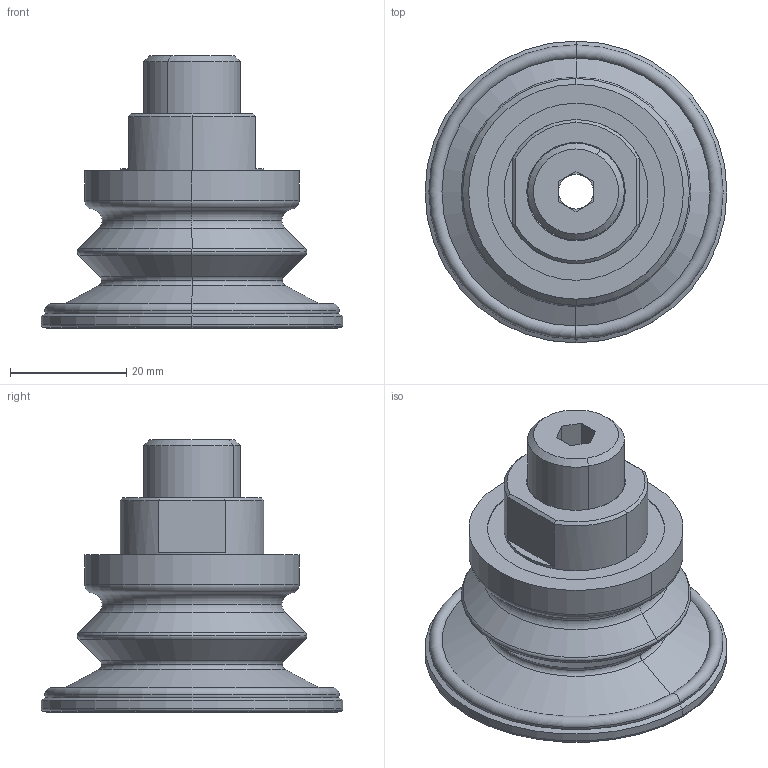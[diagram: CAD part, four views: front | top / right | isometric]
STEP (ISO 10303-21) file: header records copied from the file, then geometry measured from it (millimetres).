
FILE_DESCRIPTION(('STEP AP214'),'1');
FILE_NAME('10_01_06_01178.stp','2020-10-24T00:23:10',('TraceParts'),('TraceParts S.A.'),'Spatial InterOp 3D',' ',' ');
FILE_SCHEMA(('AUTOMOTIVE_DESIGN { 1 0 10303 214 1 1 1 1 }'));
Length unit declared in the file: millimetre
Products named in the file (1): 10_01_06_01178
Bounding box: 52 x 52 x 46.93 mm (x, y, z)
Volume: 34574.9 mm3; surface area: 10810.7 mm2
Topology: 1 solids, 2 shells, 93 faces, 198 edges, 114 vertices
Faces by surface type: plane 27, torus 22, cone 22, cylinder 22
Entity records: 3277 total; most frequent: DIRECTION 500, CARTESIAN_POINT 418, ORIENTED_EDGE 396, AXIS2_PLACEMENT_3D 212, EDGE_CURVE 198, CIRCLE 118, VERTEX_POINT 114, EDGE_LOOP 102
